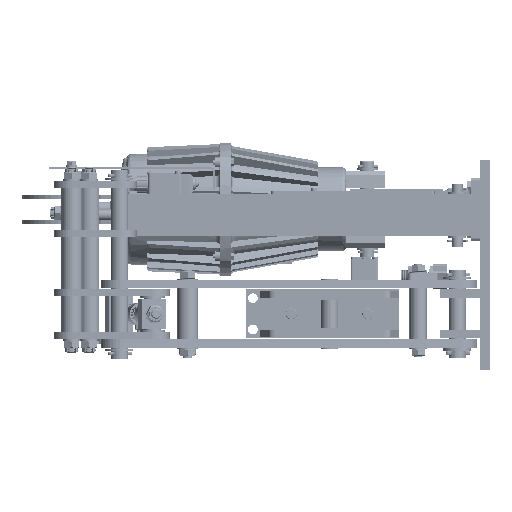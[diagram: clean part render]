
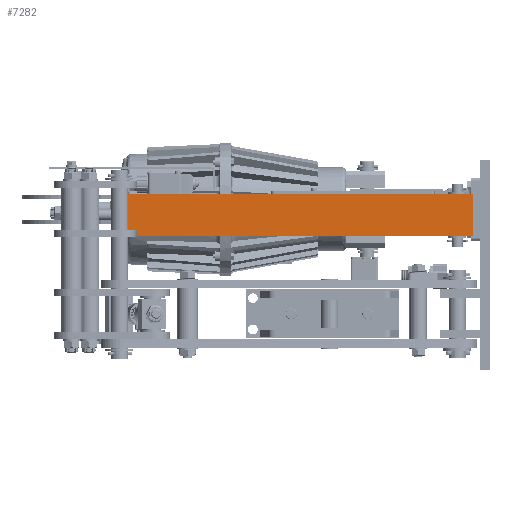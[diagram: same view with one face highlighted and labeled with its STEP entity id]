
A CAD part, left-side view. The second image highlights one B-rep face of the part: STEP entity #7282.
In plain terms, the highlighted planar face has unit normal (1, 0, 0).
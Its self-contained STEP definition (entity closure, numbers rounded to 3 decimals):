
#6058=DIRECTION('',(0.,-1.,0.));
#6059=VECTOR('',#6058,500.);
#6060=CARTESIAN_POINT('',(1454.461,1371.698,-353.179));
#6061=LINE('',#6060,#6059);
#6298=DIRECTION('',(0.,0.,1.));
#6299=VECTOR('',#6298,60.);
#6300=CARTESIAN_POINT('',(1454.461,871.698,-413.179));
#6301=LINE('',#6300,#6299);
#6305=DIRECTION('',(0.,0.,-1.));
#6306=VECTOR('',#6305,60.);
#6307=CARTESIAN_POINT('',(1454.461,1371.698,-353.179));
#6308=LINE('',#6307,#6306);
#6312=DIRECTION('',(0.,-1.,0.));
#6313=VECTOR('',#6312,500.);
#6314=CARTESIAN_POINT('',(1454.461,1371.698,-413.179));
#6315=LINE('',#6314,#6313);
#7034=CARTESIAN_POINT('',(1454.461,1371.698,-353.179));
#7036=VERTEX_POINT('',#7034);
#7039=CARTESIAN_POINT('',(1454.461,1371.698,-413.179));
#7040=VERTEX_POINT('',#7039);
#7045=CARTESIAN_POINT('',(1454.461,871.698,-413.179));
#7046=VERTEX_POINT('',#7045);
#7055=CARTESIAN_POINT('',(1454.461,871.698,-353.179));
#7056=VERTEX_POINT('',#7055);
#7270=CARTESIAN_POINT('',(1454.461,1121.698,-383.179));
#7271=DIRECTION('',(1.,0.,0.));
#7272=DIRECTION('',(0.,1.,0.));
#7273=AXIS2_PLACEMENT_3D('',#7270,#7271,#7272);
#7274=PLANE('',#7273);
#7275=ORIENTED_EDGE('',*,*,#7263,.T.);
#7276=ORIENTED_EDGE('',*,*,#7182,.F.);
#7277=ORIENTED_EDGE('',*,*,#7223,.T.);
#7279=ORIENTED_EDGE('',*,*,#7278,.T.);
#7280=EDGE_LOOP('',(#7275,#7276,#7277,#7279));
#7281=FACE_OUTER_BOUND('',#7280,.F.);
#7282=ADVANCED_FACE('',(#7281),#7274,.T.);
#7182=EDGE_CURVE('',#7036,#7056,#6061,.T.);
#7223=EDGE_CURVE('',#7036,#7040,#6308,.T.);
#7263=EDGE_CURVE('',#7046,#7056,#6301,.T.);
#7278=EDGE_CURVE('',#7040,#7046,#6315,.T.);
